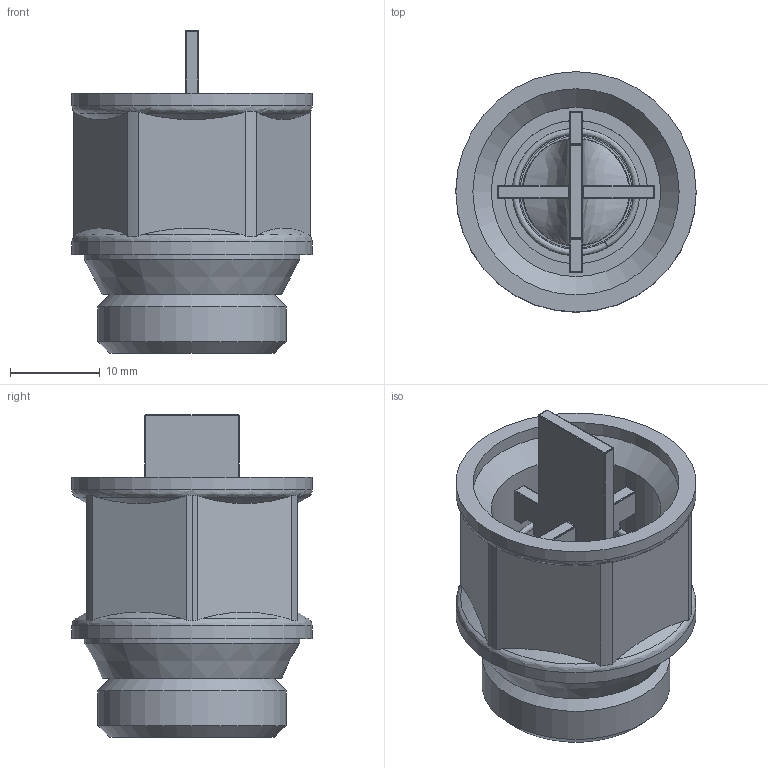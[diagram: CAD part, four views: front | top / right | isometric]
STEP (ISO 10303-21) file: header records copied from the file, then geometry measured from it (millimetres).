
FILE_DESCRIPTION(('TFLEX Exchange Step'),'2;1');
FILE_NAME('Automatic Air Vent Check Valve 1_2 VT.539.N.04 Valtec.stp', '2023-09-12T16:21:32+03:00',('denis'),('Unknown organisation'),'TFLEX Exchange 2023.0','T-FLEX CAD','Unknown authorisation');
FILE_SCHEMA( ('AUTOMOTIVE_DESIGN { 1 0 10303 214 1 1 1 1 }') );
Length unit declared in the file: millimetre
Products named in the file (1): Nodes
Bounding box: 26.8 x 26.8 x 35.95 mm (x, y, z)
Volume: 7511.1 mm3; surface area: 7943.6 mm2
Topology: 5 solids, 5 shells, 339 faces, 791 edges, 460 vertices
Faces by surface type: cylinder 178, sphere 52, plane 48, torus 27, bspline 17, cone 17
Full cylindrical faces by diameter (mm): 9 x1, 12 x2, 12.5 x1, 16 x2, 18.3 x2, 18.9 x1, 21 x1, 23 x1, 24 x2, 26.8 x2
Entity records: 12848 total; most frequent: CARTESIAN_POINT 5085, DIRECTION 1729, ORIENTED_EDGE 1564, EDGE_CURVE 782, AXIS2_PLACEMENT_3D 731, VERTEX_POINT 460, CIRCLE 408, EDGE_LOOP 352
